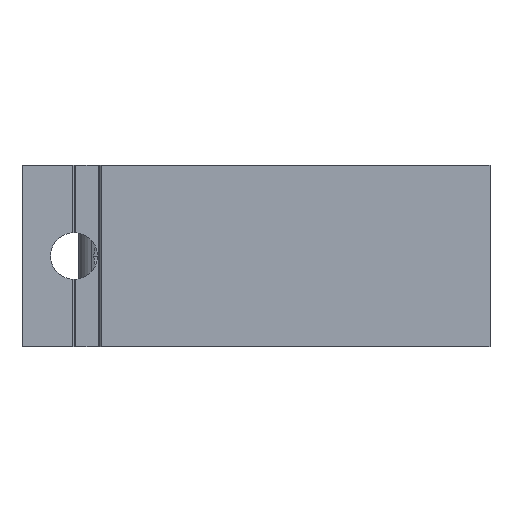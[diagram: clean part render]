
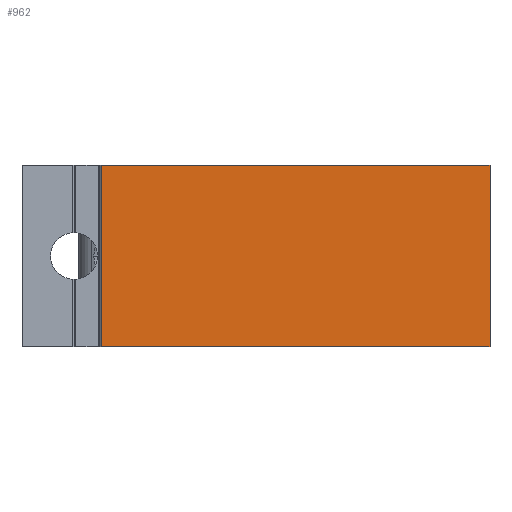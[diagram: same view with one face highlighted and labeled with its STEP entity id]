
A CAD part, front view. The second image highlights one B-rep face of the part: STEP entity #962.
In plain terms, the highlighted planar face has unit normal (0, -1, 0).
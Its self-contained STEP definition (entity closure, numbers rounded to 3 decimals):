
#24 = VECTOR ( 'NONE', #1532, 1000. ) ;
#45 = CARTESIAN_POINT ( 'NONE',  ( 0., 0., 17.5 ) ) ;
#84 = AXIS2_PLACEMENT_3D ( 'NONE', #1760, #1341, #799 ) ;
#120 = VERTEX_POINT ( 'NONE', #554 ) ;
#153 = EDGE_CURVE ( 'NONE', #1622, #297, #1418, .T. ) ;
#221 = LINE ( 'NONE', #520, #929 ) ;
#232 = PLANE ( 'NONE',  #84 ) ;
#297 = VERTEX_POINT ( 'NONE', #1755 ) ;
#376 = LINE ( 'NONE', #444, #746 ) ;
#444 = CARTESIAN_POINT ( 'NONE',  ( -74.7, 0., 17.5 ) ) ;
#520 = CARTESIAN_POINT ( 'NONE',  ( 0., 0., -17.5 ) ) ;
#536 = EDGE_CURVE ( 'NONE', #1772, #120, #376, .T. ) ;
#554 = CARTESIAN_POINT ( 'NONE',  ( -74.7, 0., -17.5 ) ) ;
#592 = DIRECTION ( 'NONE',  ( 0., 0., -1. ) ) ;
#655 = ORIENTED_EDGE ( 'NONE', *, *, #536, .T. ) ;
#685 = VECTOR ( 'NONE', #1216, 1000. ) ;
#746 = VECTOR ( 'NONE', #592, 1000. ) ;
#799 = DIRECTION ( 'NONE',  ( 0., 0., 1. ) ) ;
#816 = LINE ( 'NONE', #1038, #24 ) ;
#909 = EDGE_CURVE ( 'NONE', #1772, #1622, #816, .T. ) ;
#929 = VECTOR ( 'NONE', #1633, 1000. ) ;
#962 = ADVANCED_FACE ( 'NONE', ( #1416 ), #232, .F. ) ;
#970 = CARTESIAN_POINT ( 'NONE',  ( -74.7, 0., 17.5 ) ) ;
#993 = CARTESIAN_POINT ( 'NONE',  ( 0., 0., 17.5 ) ) ;
#1038 = CARTESIAN_POINT ( 'NONE',  ( 0., 0., 17.5 ) ) ;
#1042 = EDGE_CURVE ( 'NONE', #120, #297, #221, .T. ) ;
#1116 = ORIENTED_EDGE ( 'NONE', *, *, #909, .F. ) ;
#1154 = ORIENTED_EDGE ( 'NONE', *, *, #153, .F. ) ;
#1165 = ORIENTED_EDGE ( 'NONE', *, *, #1042, .T. ) ;
#1216 = DIRECTION ( 'NONE',  ( 0., 0., -1. ) ) ;
#1341 = DIRECTION ( 'NONE',  ( 0., 1., 0. ) ) ;
#1416 = FACE_OUTER_BOUND ( 'NONE', #1808, .T. ) ;
#1418 = LINE ( 'NONE', #993, #685 ) ;
#1532 = DIRECTION ( 'NONE',  ( 1., 0., 0. ) ) ;
#1622 = VERTEX_POINT ( 'NONE', #45 ) ;
#1633 = DIRECTION ( 'NONE',  ( 1., 0., 0. ) ) ;
#1755 = CARTESIAN_POINT ( 'NONE',  ( 0., 0., -17.5 ) ) ;
#1760 = CARTESIAN_POINT ( 'NONE',  ( 0., 0., 17.5 ) ) ;
#1772 = VERTEX_POINT ( 'NONE', #970 ) ;
#1808 = EDGE_LOOP ( 'NONE', ( #1165, #1154, #1116, #655 ) ) ;
